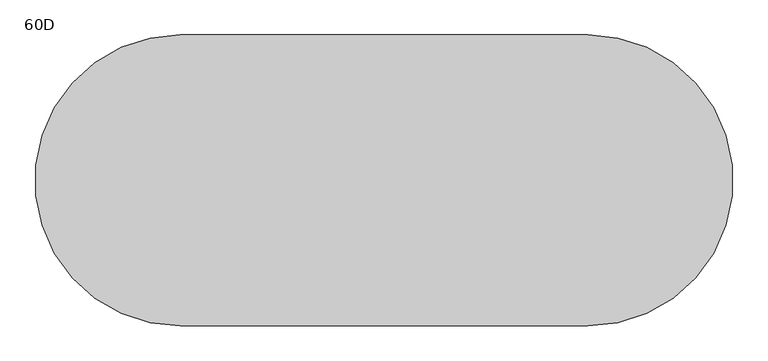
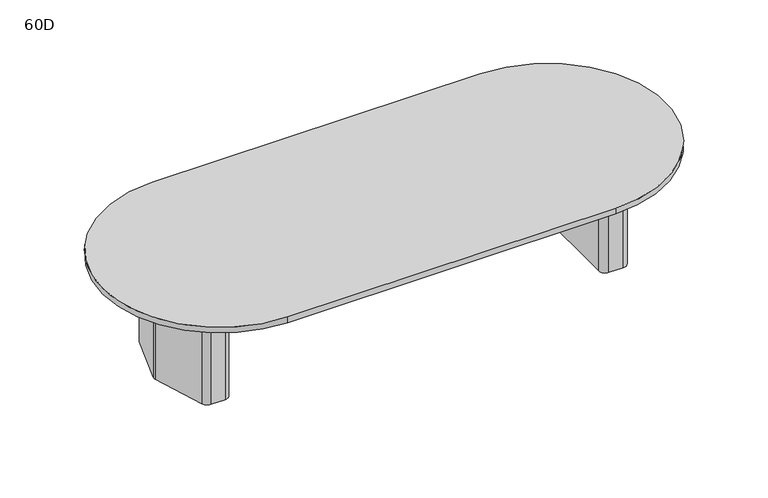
"""IFC4 building model written with IfcOpenShell, lengths in millimetres: furniture geometry, Coalesse_AM_Table_Conference_ETable2_Racetrack_12ft_TwoBase : 60D."""

from ifc_helpers import new_model, si_unit, point, frame, frame_2d, origin, origin_with_axes, place, context, project, spatial, polyline, circle_curve, trimmed, segment, composite_curve, outline, extrude, source, transform, mapped, element, save


def furniture_60d_5f34fe1c(model_context):
    return source(origin(), model_context, "Body", "SweptSolid", [
        extrude(outline(composite_curve([segment(polyline([(1427.1625, 101.7236478), (1427.1625, -97.2761514)]), True, "CONTINUOUS"), segment(trimmed(circle_curve(frame_2d((1389.0625, -97.2761514)), 38.1), [point((1427.1625, -97.2761514))], [point((1425.3991129, -108.7330515))], False, "CARTESIAN"), True, "CONTINUOUS"), segment(polyline([(1425.3991129, -108.7330515), (1366.9745591, -294.0319001)]), True, "CONTINUOUS"), segment(trimmed(circle_curve(frame_2d((1330.6379462, -282.575)), 38.1), [point((1366.9745591, -294.0319001))], [point((1330.6379462, -320.675))], False, "CARTESIAN"), True, "CONTINUOUS"), segment(polyline([(1330.6379462, -320.675), (1263.65, -320.675)]), True, "CONTINUOUS"), segment(trimmed(circle_curve(frame_2d((1263.65, -282.575)), 38.1), [point((1263.65, -320.675))], [point((1225.55, -282.575))], False, "CARTESIAN"), True, "CONTINUOUS"), segment(polyline([(1225.55, -282.575), (1225.55, 282.575)]), True, "CONTINUOUS"), segment(trimmed(circle_curve(frame_2d((1263.65, 282.575)), 38.1), [point((1225.55, 282.575))], [point((1263.65, 320.675))], False, "CARTESIAN"), True, "CONTINUOUS"), segment(polyline([(1263.65, 320.675), (1334.3873998, 320.675)]), True, "CONTINUOUS"), segment(trimmed(circle_curve(frame_2d((1334.3873998, 282.575)), 38.1), [point((1334.3873998, 320.675))], [point((1370.8572049, 293.6005756))], False, "CARTESIAN"), True, "CONTINUOUS"), segment(polyline([(1370.8572049, 293.6005756), (1425.5323051, 112.7492234)]), True, "CONTINUOUS"), segment(trimmed(circle_curve(frame_2d((1389.0625, 101.7236478)), 38.1), [point((1425.5323051, 112.7492234))], [point((1427.1625, 101.7236478))], False, "CARTESIAN"), True, "CONTINUOUS")], self_intersect=False)), origin_with_axes(), (0.0, 0.0, 1.0), 3.175),
        extrude(outline(composite_curve([segment(polyline([(1247.775, 381.0), (1335.9221663, 381.0)]), True, "CONTINUOUS"), segment(trimmed(circle_curve(frame_2d((1335.9221663, 339.725)), 41.275), [point((1335.9221663, 381.0))], [point((1375.2868303, 352.1366418))], False, "CARTESIAN"), True, "CONTINUOUS"), segment(polyline([(1375.2868303, 352.1366418), (1482.4018053, 12.4116418)]), True, "CONTINUOUS"), segment(trimmed(circle_curve(frame_2d((1443.0371413, 0.0)), 41.275), [point((1482.4018053, 12.4116418))], [point((1482.4018053, -12.4116418))], False, "CARTESIAN"), True, "CONTINUOUS"), segment(polyline([(1482.4018053, -12.4116418), (1375.2868303, -352.1366418)]), True, "CONTINUOUS"), segment(trimmed(circle_curve(frame_2d((1335.9221663, -339.725)), 41.275), [point((1375.2868303, -352.1366418))], [point((1335.9221663, -381.0))], False, "CARTESIAN"), True, "CONTINUOUS"), segment(polyline([(1335.9221663, -381.0), (1241.425, -381.0)]), True, "CONTINUOUS"), segment(trimmed(circle_curve(frame_2d((1241.425, -339.725)), 41.275), [point((1241.425, -381.0))], [point((1200.15, -339.725))], False, "CARTESIAN"), True, "CONTINUOUS"), segment(polyline([(1200.15, -339.725), (1200.15, 333.375)]), True, "CONTINUOUS"), segment(trimmed(circle_curve(frame_2d((1247.775, 333.375)), 47.625), [point((1200.15, 333.375))], [point((1247.775, 381.0))], False, "CARTESIAN"), True, "CONTINUOUS")], self_intersect=False), holes=[composite_curve([segment(trimmed(circle_curve(frame_2d((1263.65, -282.575)), 25.4), [point((1238.25, -282.575))], [point((1263.65, -307.975))], True, "CARTESIAN"), True, "CONTINUOUS"), segment(polyline([(1263.65, -307.975), (1330.6379462, -307.975)]), True, "CONTINUOUS"), segment(trimmed(circle_curve(frame_2d((1330.6379462, -282.575)), 25.4), [point((1330.6379462, -307.975))], [point((1354.8623548, -290.2129334))], True, "CARTESIAN"), True, "CONTINUOUS"), segment(polyline([(1354.8623548, -290.2129334), (1413.2869086, -104.9140848)]), True, "CONTINUOUS"), segment(trimmed(circle_curve(frame_2d((1389.0625, -97.2761514)), 25.4), [point((1413.2869086, -104.9140848))], [point((1414.4625, -97.2761514))], True, "CARTESIAN"), True, "CONTINUOUS"), segment(polyline([(1414.4625, -97.2761514), (1414.4625, 101.7236478)]), True, "CONTINUOUS"), segment(trimmed(circle_curve(frame_2d((1389.0625, 101.7236478)), 25.4), [point((1414.4625, 101.7236478))], [point((1413.3757034, 109.0740316))], True, "CARTESIAN"), True, "CONTINUOUS"), segment(polyline([(1413.3757034, 109.0740316), (1358.7006032, 289.9253837)]), True, "CONTINUOUS"), segment(trimmed(circle_curve(frame_2d((1334.3873998, 282.575)), 25.4), [point((1358.7006032, 289.9253837))], [point((1334.3873998, 307.975))], True, "CARTESIAN"), True, "CONTINUOUS"), segment(polyline([(1334.3873998, 307.975), (1263.65, 307.975)]), True, "CONTINUOUS"), segment(trimmed(circle_curve(frame_2d((1263.65, 282.575)), 25.4), [point((1263.65, 307.975))], [point((1238.25, 282.575))], True, "CARTESIAN"), True, "CONTINUOUS"), segment(polyline([(1238.25, 282.575), (1238.25, -282.575)]), True, "CONTINUOUS")], self_intersect=False)]), frame((0.0, 0.0, 3.175), z_axis=(0.0, 0.0, 1.0), x_axis=(1.0, 0.0, 0.0)), (0.0, 0.0, 1.0), 695.325),
        extrude(outline(composite_curve([segment(trimmed(circle_curve(frame_2d((-1400.175, 101.7236478)), 38.1), [point((-1438.275, 101.7236478))], [point((-1436.6448051, 112.7492234))], False, "CARTESIAN"), True, "CONTINUOUS"), segment(polyline([(-1436.6448051, 112.7492234), (-1381.9697049, 293.6005756)]), True, "CONTINUOUS"), segment(trimmed(circle_curve(frame_2d((-1345.4998998, 282.575)), 38.1), [point((-1381.9697049, 293.6005756))], [point((-1345.4998998, 320.675))], False, "CARTESIAN"), True, "CONTINUOUS"), segment(polyline([(-1345.4998998, 320.675), (-1274.7625, 320.675)]), True, "CONTINUOUS"), segment(trimmed(circle_curve(frame_2d((-1274.7625, 282.575)), 38.1), [point((-1274.7625, 320.675))], [point((-1236.6625, 282.575))], False, "CARTESIAN"), True, "CONTINUOUS"), segment(polyline([(-1236.6625, 282.575), (-1236.6625, -282.575)]), True, "CONTINUOUS"), segment(trimmed(circle_curve(frame_2d((-1274.7625, -282.575)), 38.1), [point((-1236.6625, -282.575))], [point((-1274.7625, -320.675))], False, "CARTESIAN"), True, "CONTINUOUS"), segment(polyline([(-1274.7625, -320.675), (-1341.7504462, -320.675)]), True, "CONTINUOUS"), segment(trimmed(circle_curve(frame_2d((-1341.7504462, -282.575)), 38.1), [point((-1341.7504462, -320.675))], [point((-1378.0870591, -294.0319001))], False, "CARTESIAN"), True, "CONTINUOUS"), segment(polyline([(-1378.0870591, -294.0319001), (-1436.5116129, -108.7330515)]), True, "CONTINUOUS"), segment(trimmed(circle_curve(frame_2d((-1400.175, -97.2761514)), 38.1), [point((-1436.5116129, -108.7330515))], [point((-1438.275, -97.2761514))], False, "CARTESIAN"), True, "CONTINUOUS"), segment(polyline([(-1438.275, -97.2761514), (-1438.275, 101.7236478)]), True, "CONTINUOUS")], self_intersect=False)), origin_with_axes(), (0.0, 0.0, 1.0), 3.175),
        extrude(outline(composite_curve([segment(trimmed(circle_curve(frame_2d((-1258.8875, 333.375)), 47.625), [point((-1258.8875, 381.0))], [point((-1211.2625, 333.375))], False, "CARTESIAN"), True, "CONTINUOUS"), segment(polyline([(-1211.2625, 333.375), (-1211.2625, -339.725)]), True, "CONTINUOUS"), segment(trimmed(circle_curve(frame_2d((-1252.5375, -339.725)), 41.275), [point((-1211.2625, -339.725))], [point((-1252.5375, -381.0))], False, "CARTESIAN"), True, "CONTINUOUS"), segment(polyline([(-1252.5375, -381.0), (-1347.0346663, -381.0)]), True, "CONTINUOUS"), segment(trimmed(circle_curve(frame_2d((-1347.0346663, -339.725)), 41.275), [point((-1347.0346663, -381.0))], [point((-1386.3993303, -352.1366418))], False, "CARTESIAN"), True, "CONTINUOUS"), segment(polyline([(-1386.3993303, -352.1366418), (-1493.5143053, -12.4116418)]), True, "CONTINUOUS"), segment(trimmed(circle_curve(frame_2d((-1454.1496413, 0.0)), 41.275), [point((-1493.5143053, -12.4116418))], [point((-1493.5143053, 12.4116418))], False, "CARTESIAN"), True, "CONTINUOUS"), segment(polyline([(-1493.5143053, 12.4116418), (-1386.3993303, 352.1366418)]), True, "CONTINUOUS"), segment(trimmed(circle_curve(frame_2d((-1347.0346663, 339.725)), 41.275), [point((-1386.3993303, 352.1366418))], [point((-1347.0346663, 381.0))], False, "CARTESIAN"), True, "CONTINUOUS"), segment(polyline([(-1347.0346663, 381.0), (-1258.8875, 381.0)]), True, "CONTINUOUS")], self_intersect=False), holes=[composite_curve([segment(polyline([(-1249.3625, -282.575), (-1249.3625, 282.575)]), True, "CONTINUOUS"), segment(trimmed(circle_curve(frame_2d((-1274.7625, 282.575)), 25.4), [point((-1249.3625, 282.575))], [point((-1274.7625, 307.975))], True, "CARTESIAN"), True, "CONTINUOUS"), segment(polyline([(-1274.7625, 307.975), (-1345.4998998, 307.975)]), True, "CONTINUOUS"), segment(trimmed(circle_curve(frame_2d((-1345.4998998, 282.575)), 25.4), [point((-1345.4998998, 307.975))], [point((-1369.8131032, 289.9253837))], True, "CARTESIAN"), True, "CONTINUOUS"), segment(polyline([(-1369.8131032, 289.9253837), (-1424.4882034, 109.0740316)]), True, "CONTINUOUS"), segment(trimmed(circle_curve(frame_2d((-1400.175, 101.7236478)), 25.4), [point((-1424.4882034, 109.0740316))], [point((-1425.575, 101.7236478))], True, "CARTESIAN"), True, "CONTINUOUS"), segment(polyline([(-1425.575, 101.7236478), (-1425.575, -97.2761514)]), True, "CONTINUOUS"), segment(trimmed(circle_curve(frame_2d((-1400.175, -97.2761514)), 25.4), [point((-1425.575, -97.2761514))], [point((-1424.3994086, -104.9140848))], True, "CARTESIAN"), True, "CONTINUOUS"), segment(polyline([(-1424.3994086, -104.9140848), (-1365.9748548, -290.2129334)]), True, "CONTINUOUS"), segment(trimmed(circle_curve(frame_2d((-1341.7504462, -282.575)), 25.4), [point((-1365.9748548, -290.2129334))], [point((-1341.7504462, -307.975))], True, "CARTESIAN"), True, "CONTINUOUS"), segment(polyline([(-1341.7504462, -307.975), (-1274.7625, -307.975)]), True, "CONTINUOUS"), segment(trimmed(circle_curve(frame_2d((-1274.7625, -282.575)), 25.4), [point((-1274.7625, -307.975))], [point((-1249.3625, -282.575))], True, "CARTESIAN"), True, "CONTINUOUS")], self_intersect=False)]), frame((0.0, 0.0, 3.175), z_axis=(0.0, 0.0, 1.0), x_axis=(1.0, 0.0, 0.0)), (0.0, 0.0, 1.0), 695.325),
        extrude(outline(polyline([(96.8375, 698.5), (103.1875, 698.5), (103.1875, 476.25), (-103.1875, 476.25), (-103.1875, 698.5), (-96.8375, 698.5), (-96.8375, 482.6), (96.8375, 482.6), (96.8375, 698.5)])), frame((-1211.2625, 0.0, 0.0), z_axis=(1.0, 0.0, 0.0), x_axis=(0.0, 1.0, 0.0)), (0.0, 0.0, 1.0), 2411.4125),
        extrude(outline(composite_curve([segment(trimmed(circle_curve(frame_2d((-1066.8, 0.0)), 762.0), [point((-1066.8, -762.0))], [point((-1066.8, 762.0))], False, "CARTESIAN"), True, "CONTINUOUS"), segment(polyline([(-1066.8, 762.0), (1066.8, 762.0)]), True, "CONTINUOUS"), segment(trimmed(circle_curve(frame_2d((1066.8, 0.0)), 762.0), [point((1066.8, 762.0))], [point((1066.8, -762.0))], False, "CARTESIAN"), True, "CONTINUOUS"), segment(polyline([(1066.8, -762.0), (-1066.8, -762.0)]), True, "CONTINUOUS")], self_intersect=False)), frame((0.0, 0.0, 698.5), z_axis=(0.0, 0.0, 1.0), x_axis=(1.0, 0.0, 0.0)), (0.0, 0.0, 1.0), 38.1),
    ])


if __name__ == "__main__":
    model = new_model("IFC4")
    model_context = context("Model", 3, world=origin())
    ifc_project = project(units=[si_unit("LENGTHUNIT", "METRE", prefix="MILLI")], contexts=[model_context])
    site = spatial("IfcSite", under=ifc_project)
    building = spatial("IfcBuilding", under=site)
    placement = place(None, origin())
    furniture_60d_shape = furniture_60d_5f34fe1c(model_context)
    element("IfcFurniture", 1, ObjectType="Coalesse_AM_Table_Conference_ETable2_Racetrack_12ft_TwoBase : 60D", at=placement, inside=building, context=model_context, shape_type="MappedRepresentation", body=[
        mapped(furniture_60d_shape, transform((0.0, 0.0, 0.0), x_axis=(1.0, 0.0, 0.0), y_axis=(0.0, 1.0, 0.0), z_axis=(0.0, 0.0, 1.0))),
    ])
    save(model, "model.ifc")
